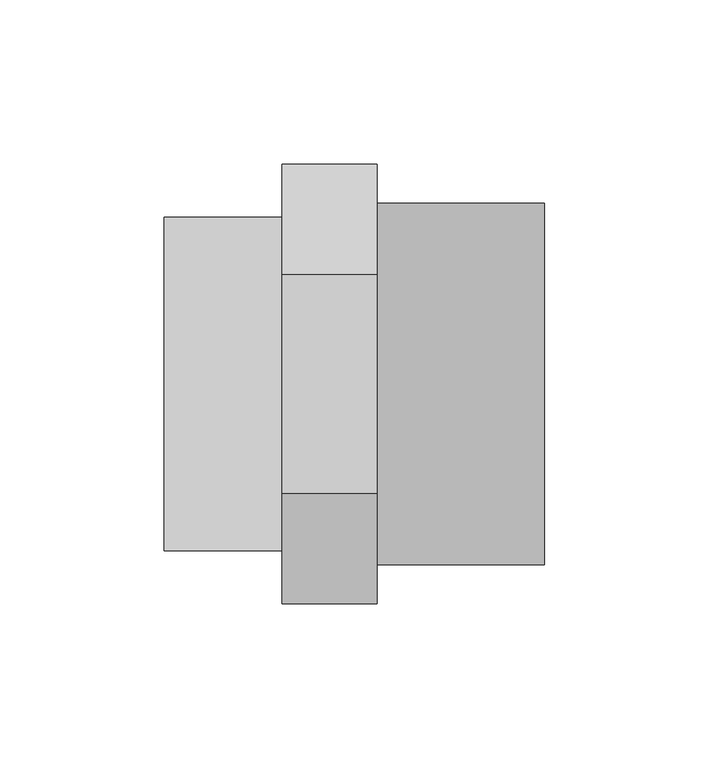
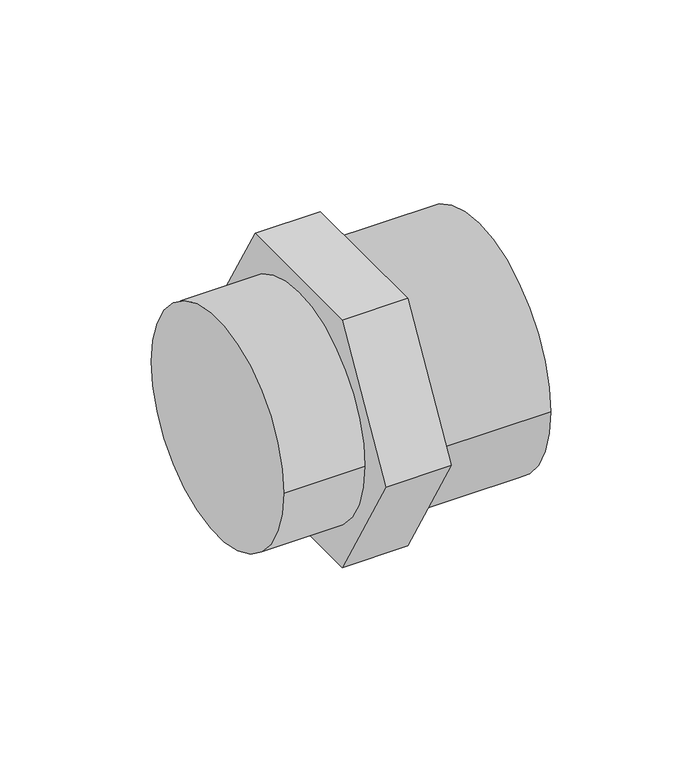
"""IFC4 building model written with IfcOpenShell, lengths in millimetres: pipe fitting geometry, 01101081 : Manguitos multiplos H/M/M."""

from ifc_helpers import new_model, si_unit, point, frame, origin, origin_2d, place, context, project, spatial, polyline, circle_curve, trimmed, segment, composite_curve, outline, extrude, source, transform, mapped, element, save


def pipe_fitting_1f470e11(model_context):
    return source(origin(), model_context, "Body", "SweptSolid", [
        extrude(outline(composite_curve([segment(trimmed(circle_curve(origin_2d(), 50.8), [point((50.8, 0.0))], [point((-50.8, 0.0))], False, "CARTESIAN"), True, "CONTINUOUS"), segment(trimmed(circle_curve(origin_2d(), 50.8), [point((-50.8, 0.0))], [point((50.8, 0.0))], False, "CARTESIAN"), True, "CONTINUOUS")], self_intersect=False)), frame((0.0, 0.0, 0.0), z_axis=(1.0, 0.0, 0.0), x_axis=(0.0, 1.0, 0.0)), (0.0, 0.0, 1.0), 36.0),
        extrude(outline(polyline([(-33.4863156, 58.0), (33.4863156, 58.0), (66.9726312, 0.0), (33.4863156, -58.0), (-33.4863156, -58.0), (-66.9726312, 0.0), (-33.4863156, 58.0)])), frame((36.0, 0.0, 0.0), z_axis=(1.0, 0.0, 0.0), x_axis=(0.0, 1.0, 0.0)), (0.0, 0.0, 1.0), 29.0),
        extrude(outline(composite_curve([segment(trimmed(circle_curve(origin_2d(), 55.0), [point((-55.0, 0.0))], [point((55.0, 0.0))], False, "CARTESIAN"), True, "CONTINUOUS"), segment(trimmed(circle_curve(origin_2d(), 55.0), [point((55.0, 0.0))], [point((-55.0, 0.0))], False, "CARTESIAN"), True, "CONTINUOUS")], self_intersect=False)), frame((65.0, 0.0, 0.0), z_axis=(1.0, 0.0, 0.0), x_axis=(0.0, 1.0, 0.0)), (0.0, 0.0, 1.0), 51.0),
    ])


if __name__ == "__main__":
    model = new_model("IFC4")
    model_context = context("Model", 3, world=origin())
    ifc_project = project(units=[si_unit("LENGTHUNIT", "METRE", prefix="MILLI")], contexts=[model_context])
    site = spatial("IfcSite", under=ifc_project)
    building = spatial("IfcBuilding", under=site)
    placement = place(None, origin())
    pipe_fitting_shape = pipe_fitting_1f470e11(model_context)
    element("IfcPipeFitting", 1, ObjectType="01101081 : Manguitos multiplos H/M/M", at=placement, inside=building, context=model_context, shape_type="MappedRepresentation", body=[
        mapped(pipe_fitting_shape, transform((0.0, 0.0, 0.0), x_axis=(1.0, 0.0, 0.0), y_axis=(0.0, 1.0, 0.0), z_axis=(0.0, 0.0, 1.0))),
    ])
    save(model, "model.ifc")
